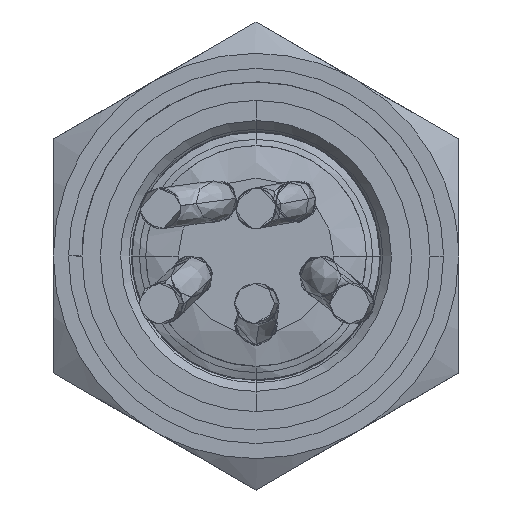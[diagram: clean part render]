
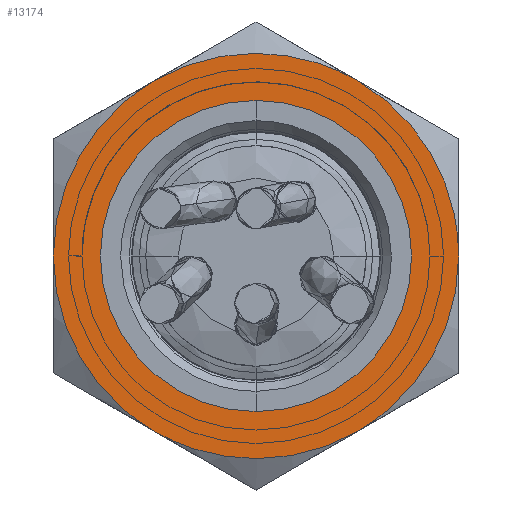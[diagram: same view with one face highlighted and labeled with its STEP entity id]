
A CAD part, left-side view. The second image highlights one B-rep face of the part: STEP entity #13174.
In plain terms, the highlighted planar face has unit normal (-1, 0, 0).
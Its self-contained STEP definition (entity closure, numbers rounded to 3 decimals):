
#13003=AXIS2_PLACEMENT_3D('Circle Axis2P3D',#13001,#13002,$) ;
#13064=AXIS2_PLACEMENT_3D('Plane Axis2P3D',#13061,#13062,#13063) ;
#12962=CARTESIAN_POINT('Vertex',(-12.6,6.175,0.)) ;
#12966=CARTESIAN_POINT('Control Point',(-12.6,-6.175,0.)) ;
#12967=CARTESIAN_POINT('Control Point',(-12.6,-6.175,-0.97)) ;
#12968=CARTESIAN_POINT('Control Point',(-12.6,-5.985,-1.94)) ;
#12969=CARTESIAN_POINT('Control Point',(-12.6,-5.603,-2.86)) ;
#12970=CARTESIAN_POINT('Control Point',(-12.6,-4.501,-4.501)) ;
#12971=CARTESIAN_POINT('Control Point',(-12.6,-2.86,-5.603)) ;
#12972=CARTESIAN_POINT('Control Point',(-12.6,-1.94,-5.985)) ;
#12973=CARTESIAN_POINT('Control Point',(-12.6,0.,-6.365)) ;
#12974=CARTESIAN_POINT('Control Point',(-12.6,1.94,-5.985)) ;
#12975=CARTESIAN_POINT('Control Point',(-12.6,2.86,-5.603)) ;
#12976=CARTESIAN_POINT('Control Point',(-12.6,4.501,-4.501)) ;
#12977=CARTESIAN_POINT('Control Point',(-12.6,5.603,-2.86)) ;
#12978=CARTESIAN_POINT('Control Point',(-12.6,5.985,-1.94)) ;
#12979=CARTESIAN_POINT('Control Point',(-12.6,6.175,-0.97)) ;
#12980=CARTESIAN_POINT('Control Point',(-12.6,6.175,0.)) ;
#12981=CARTESIAN_POINT('Vertex',(-12.6,-6.175,0.)) ;
#13001=CARTESIAN_POINT('Axis2P3D Location',(-12.6,0.,0.)) ;
#13061=CARTESIAN_POINT('Axis2P3D Location',(-12.6,8.5,-14.722)) ;
#13067=CARTESIAN_POINT('Control Point',(-12.6,-8.5,0.)) ;
#13068=CARTESIAN_POINT('Control Point',(-12.6,-8.5,-0.857)) ;
#13069=CARTESIAN_POINT('Control Point',(-12.6,-8.392,-1.714)) ;
#13070=CARTESIAN_POINT('Control Point',(-12.6,-8.176,-2.553)) ;
#13071=CARTESIAN_POINT('Control Point',(-12.6,-7.537,-4.158)) ;
#13072=CARTESIAN_POINT('Control Point',(-12.6,-6.52,-5.554)) ;
#13073=CARTESIAN_POINT('Control Point',(-12.6,-5.926,-6.184)) ;
#13074=CARTESIAN_POINT('Control Point',(-12.6,-5.207,-6.775)) ;
#13075=CARTESIAN_POINT('Control Point',(-12.6,-4.421,-7.26)) ;
#13076=CARTESIAN_POINT('Control Point',(-12.6,-4.364,-7.294)) ;
#13077=CARTESIAN_POINT('Control Point',(-12.6,-4.307,-7.328)) ;
#13078=CARTESIAN_POINT('Control Point',(-12.6,-4.25,-7.361)) ;
#13079=CARTESIAN_POINT('Vertex',(-12.6,-8.5,0.)) ;
#13081=CARTESIAN_POINT('Vertex',(-12.6,-4.25,-7.361)) ;
#13085=CARTESIAN_POINT('Control Point',(-12.6,-4.25,7.361)) ;
#13086=CARTESIAN_POINT('Control Point',(-12.6,-4.992,6.933)) ;
#13087=CARTESIAN_POINT('Control Point',(-12.6,-5.68,6.411)) ;
#13088=CARTESIAN_POINT('Control Point',(-12.6,-6.299,5.804)) ;
#13089=CARTESIAN_POINT('Control Point',(-12.6,-7.369,4.449)) ;
#13090=CARTESIAN_POINT('Control Point',(-12.6,-8.07,2.87)) ;
#13091=CARTESIAN_POINT('Control Point',(-12.6,-8.319,2.04)) ;
#13092=CARTESIAN_POINT('Control Point',(-12.6,-8.471,1.122)) ;
#13093=CARTESIAN_POINT('Control Point',(-12.6,-8.498,0.199)) ;
#13094=CARTESIAN_POINT('Control Point',(-12.6,-8.499,0.133)) ;
#13095=CARTESIAN_POINT('Control Point',(-12.6,-8.5,0.066)) ;
#13096=CARTESIAN_POINT('Control Point',(-12.6,-8.5,0.)) ;
#13097=CARTESIAN_POINT('Vertex',(-12.6,-4.25,7.361)) ;
#13101=CARTESIAN_POINT('Control Point',(-12.6,4.25,7.361)) ;
#13102=CARTESIAN_POINT('Control Point',(-12.6,3.508,7.79)) ;
#13103=CARTESIAN_POINT('Control Point',(-12.6,2.712,8.125)) ;
#13104=CARTESIAN_POINT('Control Point',(-12.6,1.877,8.357)) ;
#13105=CARTESIAN_POINT('Control Point',(-12.6,0.168,8.606)) ;
#13106=CARTESIAN_POINT('Control Point',(-12.6,-1.55,8.424)) ;
#13107=CARTESIAN_POINT('Control Point',(-12.6,-2.393,8.224)) ;
#13108=CARTESIAN_POINT('Control Point',(-12.6,-3.264,7.897)) ;
#13109=CARTESIAN_POINT('Control Point',(-12.6,-4.077,7.459)) ;
#13110=CARTESIAN_POINT('Control Point',(-12.6,-4.135,7.427)) ;
#13111=CARTESIAN_POINT('Control Point',(-12.6,-4.193,7.394)) ;
#13112=CARTESIAN_POINT('Control Point',(-12.6,-4.25,7.361)) ;
#13113=CARTESIAN_POINT('Vertex',(-12.6,4.25,7.361)) ;
#13117=CARTESIAN_POINT('Control Point',(-12.6,8.5,0.)) ;
#13118=CARTESIAN_POINT('Control Point',(-12.6,8.5,0.857)) ;
#13119=CARTESIAN_POINT('Control Point',(-12.6,8.392,1.714)) ;
#13120=CARTESIAN_POINT('Control Point',(-12.6,8.176,2.553)) ;
#13121=CARTESIAN_POINT('Control Point',(-12.6,7.537,4.158)) ;
#13122=CARTESIAN_POINT('Control Point',(-12.6,6.52,5.554)) ;
#13123=CARTESIAN_POINT('Control Point',(-12.6,5.926,6.184)) ;
#13124=CARTESIAN_POINT('Control Point',(-12.6,5.207,6.775)) ;
#13125=CARTESIAN_POINT('Control Point',(-12.6,4.421,7.26)) ;
#13126=CARTESIAN_POINT('Control Point',(-12.6,4.364,7.294)) ;
#13127=CARTESIAN_POINT('Control Point',(-12.6,4.307,7.328)) ;
#13128=CARTESIAN_POINT('Control Point',(-12.6,4.25,7.361)) ;
#13129=CARTESIAN_POINT('Vertex',(-12.6,8.5,0.)) ;
#13133=CARTESIAN_POINT('Control Point',(-12.6,8.5,0.)) ;
#13134=CARTESIAN_POINT('Control Point',(-12.6,8.5,-0.857)) ;
#13135=CARTESIAN_POINT('Control Point',(-12.6,8.392,-1.714)) ;
#13136=CARTESIAN_POINT('Control Point',(-12.6,8.176,-2.553)) ;
#13137=CARTESIAN_POINT('Control Point',(-12.6,7.537,-4.158)) ;
#13138=CARTESIAN_POINT('Control Point',(-12.6,6.52,-5.554)) ;
#13139=CARTESIAN_POINT('Control Point',(-12.6,5.926,-6.184)) ;
#13140=CARTESIAN_POINT('Control Point',(-12.6,5.207,-6.775)) ;
#13141=CARTESIAN_POINT('Control Point',(-12.6,4.421,-7.26)) ;
#13142=CARTESIAN_POINT('Control Point',(-12.6,4.364,-7.294)) ;
#13143=CARTESIAN_POINT('Control Point',(-12.6,4.307,-7.328)) ;
#13144=CARTESIAN_POINT('Control Point',(-12.6,4.25,-7.361)) ;
#13145=CARTESIAN_POINT('Vertex',(-12.6,4.25,-7.361)) ;
#13149=CARTESIAN_POINT('Control Point',(-12.6,-4.25,-7.361)) ;
#13150=CARTESIAN_POINT('Control Point',(-12.6,-3.508,-7.79)) ;
#13151=CARTESIAN_POINT('Control Point',(-12.6,-2.712,-8.125)) ;
#13152=CARTESIAN_POINT('Control Point',(-12.6,-1.877,-8.357)) ;
#13153=CARTESIAN_POINT('Control Point',(-12.6,-0.168,-8.606)) ;
#13154=CARTESIAN_POINT('Control Point',(-12.6,1.55,-8.424)) ;
#13155=CARTESIAN_POINT('Control Point',(-12.6,2.393,-8.224)) ;
#13156=CARTESIAN_POINT('Control Point',(-12.6,3.264,-7.897)) ;
#13157=CARTESIAN_POINT('Control Point',(-12.6,4.077,-7.459)) ;
#13158=CARTESIAN_POINT('Control Point',(-12.6,4.135,-7.427)) ;
#13159=CARTESIAN_POINT('Control Point',(-12.6,4.193,-7.394)) ;
#13160=CARTESIAN_POINT('Control Point',(-12.6,4.25,-7.361)) ;
#13002=DIRECTION('Axis2P3D Direction',(-1.,0.,0.)) ;
#13062=DIRECTION('Axis2P3D Direction',(1.,0.,0.)) ;
#13063=DIRECTION('Axis2P3D XDirection',(0.,-1.,0.)) ;
#13163=ORIENTED_EDGE('',*,*,#13083,.F.) ;
#13164=ORIENTED_EDGE('',*,*,#13099,.F.) ;
#13165=ORIENTED_EDGE('',*,*,#13115,.F.) ;
#13166=ORIENTED_EDGE('',*,*,#13131,.F.) ;
#13167=ORIENTED_EDGE('',*,*,#13147,.T.) ;
#13168=ORIENTED_EDGE('',*,*,#13161,.F.) ;
#13171=ORIENTED_EDGE('',*,*,#13005,.T.) ;
#13172=ORIENTED_EDGE('',*,*,#12983,.T.) ;
#13173=FACE_BOUND('',#13170,.T.) ;
#13174=ADVANCED_FACE('',(#13169,#13173),#13065,.F.) ;
#12965=B_SPLINE_CURVE_WITH_KNOTS('',5,(#12966,#12967,#12968,#12969,#12970,#12971,#12972,#12973,#12974,#12975,#12976,#12977,#12978,#12979,#12980),.UNSPECIFIED.,.F.,.U.,(6,3,3,3,6),(-9.7,-4.85,0.,4.85,9.7),.UNSPECIFIED.) ;
#13066=B_SPLINE_CURVE_WITH_KNOTS('',5,(#13067,#13068,#13069,#13070,#13071,#13072,#13073,#13074,#13075,#13076,#13077,#13078),.UNSPECIFIED.,.F.,.U.,(6,3,3,6),(0.,6.06,12.119,12.588),.UNSPECIFIED.) ;
#13084=B_SPLINE_CURVE_WITH_KNOTS('',5,(#13085,#13086,#13087,#13088,#13089,#13090,#13091,#13092,#13093,#13094,#13095,#13096),.UNSPECIFIED.,.F.,.U.,(6,3,3,6),(0.,6.06,12.119,12.588),.UNSPECIFIED.) ;
#13100=B_SPLINE_CURVE_WITH_KNOTS('',5,(#13101,#13102,#13103,#13104,#13105,#13106,#13107,#13108,#13109,#13110,#13111,#13112),.UNSPECIFIED.,.F.,.U.,(6,3,3,6),(0.,6.06,12.119,12.588),.UNSPECIFIED.) ;
#13116=B_SPLINE_CURVE_WITH_KNOTS('',5,(#13117,#13118,#13119,#13120,#13121,#13122,#13123,#13124,#13125,#13126,#13127,#13128),.UNSPECIFIED.,.F.,.U.,(6,3,3,6),(0.,6.06,12.119,12.588),.UNSPECIFIED.) ;
#13132=B_SPLINE_CURVE_WITH_KNOTS('',5,(#13133,#13134,#13135,#13136,#13137,#13138,#13139,#13140,#13141,#13142,#13143,#13144),.UNSPECIFIED.,.F.,.U.,(6,3,3,6),(0.,6.06,12.119,12.588),.UNSPECIFIED.) ;
#13148=B_SPLINE_CURVE_WITH_KNOTS('',5,(#13149,#13150,#13151,#13152,#13153,#13154,#13155,#13156,#13157,#13158,#13159,#13160),.UNSPECIFIED.,.F.,.U.,(6,3,3,6),(0.,6.06,12.119,12.588),.UNSPECIFIED.) ;
#13004=CIRCLE('generated circle',#13003,6.175) ;
#12983=EDGE_CURVE('',#12982,#12963,#12965,.T.) ;
#13005=EDGE_CURVE('',#12963,#12982,#13004,.F.) ;
#13083=EDGE_CURVE('',#13080,#13082,#13066,.T.) ;
#13099=EDGE_CURVE('',#13098,#13080,#13084,.T.) ;
#13115=EDGE_CURVE('',#13114,#13098,#13100,.T.) ;
#13131=EDGE_CURVE('',#13130,#13114,#13116,.T.) ;
#13147=EDGE_CURVE('',#13130,#13146,#13132,.T.) ;
#13161=EDGE_CURVE('',#13082,#13146,#13148,.T.) ;
#13162=EDGE_LOOP('',(#13163,#13164,#13165,#13166,#13167,#13168)) ;
#13170=EDGE_LOOP('',(#13171,#13172)) ;
#13169=FACE_OUTER_BOUND('',#13162,.T.) ;
#13065=PLANE('Plane',#13064) ;
#12963=VERTEX_POINT('',#12962) ;
#12982=VERTEX_POINT('',#12981) ;
#13080=VERTEX_POINT('',#13079) ;
#13082=VERTEX_POINT('',#13081) ;
#13098=VERTEX_POINT('',#13097) ;
#13114=VERTEX_POINT('',#13113) ;
#13130=VERTEX_POINT('',#13129) ;
#13146=VERTEX_POINT('',#13145) ;
